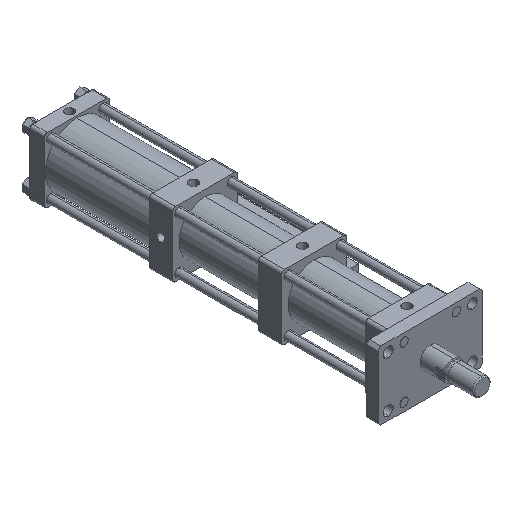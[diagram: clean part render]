
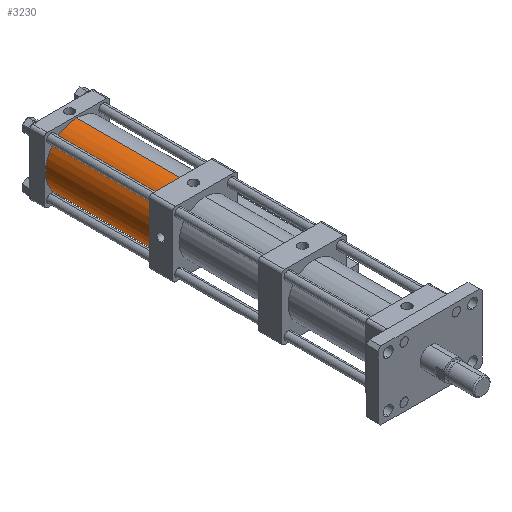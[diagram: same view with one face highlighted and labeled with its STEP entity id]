
A CAD part, isometric view. The second image highlights one B-rep face of the part: STEP entity #3230.
In plain terms, the highlighted cylindrical face has radius 54 mm (diameter 108 mm), a partial arc.
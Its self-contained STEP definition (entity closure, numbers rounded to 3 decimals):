
#129 = CARTESIAN_POINT ( 'NONE',  ( 0., 609.002, -1.638 ) ) ;
#364 = AXIS2_PLACEMENT_3D ( 'NONE', #2791, #7044, #3392 ) ;
#664 = CARTESIAN_POINT ( 'NONE',  ( 0., 609.002, 52.362 ) ) ;
#684 = CARTESIAN_POINT ( 'NONE',  ( 0., 609.002, -55.638 ) ) ;
#716 = CIRCLE ( 'NONE', #7583, 54. ) ;
#773 = VECTOR ( 'NONE', #6765, 1000. ) ;
#1122 = ORIENTED_EDGE ( 'NONE', *, *, #5351, .T. ) ;
#1496 = EDGE_CURVE ( 'NONE', #5276, #3438, #5534, .T. ) ;
#1932 = DIRECTION ( 'NONE',  ( 0., -1., 0. ) ) ;
#1987 = DIRECTION ( 'NONE',  ( 0., -1., 0. ) ) ;
#2137 = DIRECTION ( 'NONE',  ( 0., 1., 0. ) ) ;
#2268 = VECTOR ( 'NONE', #1932, 1000. ) ;
#2627 = ORIENTED_EDGE ( 'NONE', *, *, #6509, .F. ) ;
#2648 = CARTESIAN_POINT ( 'NONE',  ( 0., 609.002, -55.638 ) ) ;
#2791 = CARTESIAN_POINT ( 'NONE',  ( 0., 609.002, -1.638 ) ) ;
#2920 = ORIENTED_EDGE ( 'NONE', *, *, #1496, .T. ) ;
#3056 = AXIS2_PLACEMENT_3D ( 'NONE', #129, #1987, #4444 ) ;
#3230 = ADVANCED_FACE ( 'NONE', ( #4238 ), #7271, .T. ) ;
#3285 = CARTESIAN_POINT ( 'NONE',  ( 0., 428.002, 52.362 ) ) ;
#3392 = DIRECTION ( 'NONE',  ( 0., 0., 1. ) ) ;
#3438 = VERTEX_POINT ( 'NONE', #6298 ) ;
#4018 = VERTEX_POINT ( 'NONE', #4284 ) ;
#4238 = FACE_OUTER_BOUND ( 'NONE', #7708, .T. ) ;
#4284 = CARTESIAN_POINT ( 'NONE',  ( 0., 609.002, 52.362 ) ) ;
#4444 = DIRECTION ( 'NONE',  ( 0., 0., -1. ) ) ;
#4619 = VERTEX_POINT ( 'NONE', #3285 ) ;
#4788 = CIRCLE ( 'NONE', #364, 54. ) ;
#5276 = VERTEX_POINT ( 'NONE', #2648 ) ;
#5351 = EDGE_CURVE ( 'NONE', #3438, #4619, #716, .T. ) ;
#5534 = LINE ( 'NONE', #684, #2268 ) ;
#5684 = LINE ( 'NONE', #664, #773 ) ;
#5794 = ORIENTED_EDGE ( 'NONE', *, *, #7634, .F. ) ;
#5813 = CARTESIAN_POINT ( 'NONE',  ( 0., 428.002, -1.638 ) ) ;
#6298 = CARTESIAN_POINT ( 'NONE',  ( 0., 428.002, -55.638 ) ) ;
#6412 = DIRECTION ( 'NONE',  ( 0., 0., 1. ) ) ;
#6509 = EDGE_CURVE ( 'NONE', #4018, #4619, #5684, .T. ) ;
#6765 = DIRECTION ( 'NONE',  ( 0., -1., 0. ) ) ;
#7044 = DIRECTION ( 'NONE',  ( 0., 1., 0. ) ) ;
#7271 = CYLINDRICAL_SURFACE ( 'NONE', #3056, 54. ) ;
#7583 = AXIS2_PLACEMENT_3D ( 'NONE', #5813, #2137, #6412 ) ;
#7634 = EDGE_CURVE ( 'NONE', #5276, #4018, #4788, .T. ) ;
#7708 = EDGE_LOOP ( 'NONE', ( #2627, #5794, #2920, #1122 ) ) ;
